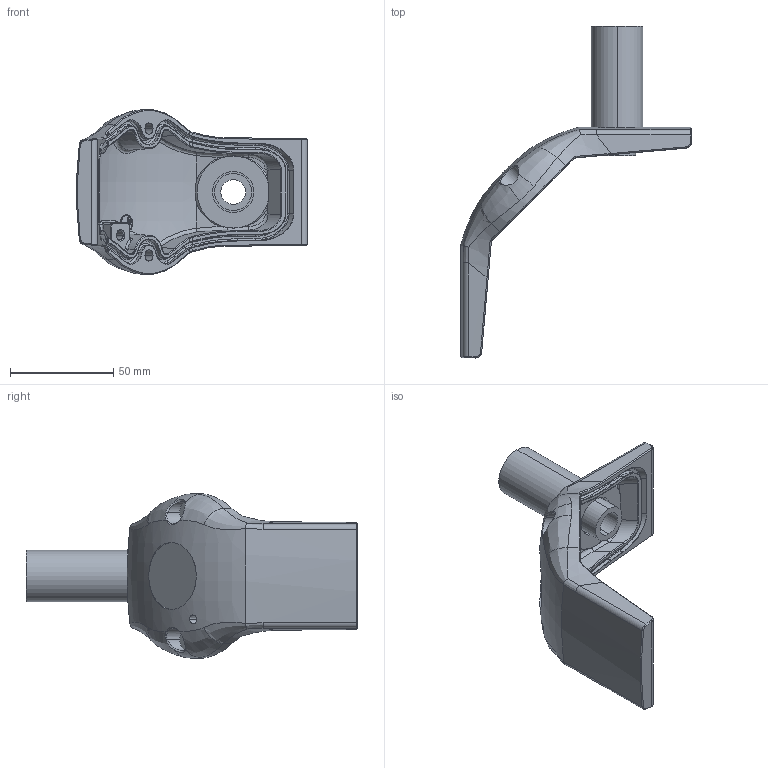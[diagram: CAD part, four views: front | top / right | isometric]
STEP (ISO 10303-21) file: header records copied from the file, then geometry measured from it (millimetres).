
FILE_DESCRIPTION (( 'STEP AP203' ), '1' );
FILE_NAME ('s1mslaa.STEP', '2015-11-10T21:19:37', ( '' ), ( '' ), 'SwSTEP 2.0', 'SolidWorks 2014', '' );
FILE_SCHEMA (( 'CONFIG_CONTROL_DESIGN' ));
Length unit declared in the file: millimetre
Products named in the file (3): 89129135; 89129140; s1mslaa
Assembly tree (2 placements, depth 2):
  s1mslaa
    89129135
    89129140
Bounding box: 111.98 x 161 x 79.67 mm (x, y, z)
Volume: 12731.6 mm3; surface area: 41226.5 mm2
Topology: 1 solids, 3 shells, 479 faces, 1135 edges, 670 vertices
Faces by surface type: bspline 233, cylinder 139, plane 62, cone 38, torus 7
Entity records: 30455 total; most frequent: CARTESIAN_POINT 21040, ORIENTED_EDGE 2268, DIRECTION 1439, EDGE_CURVE 1135, VERTEX_POINT 670, AXIS2_PLACEMENT_3D 590, EDGE_LOOP 498, ADVANCED_FACE 479
